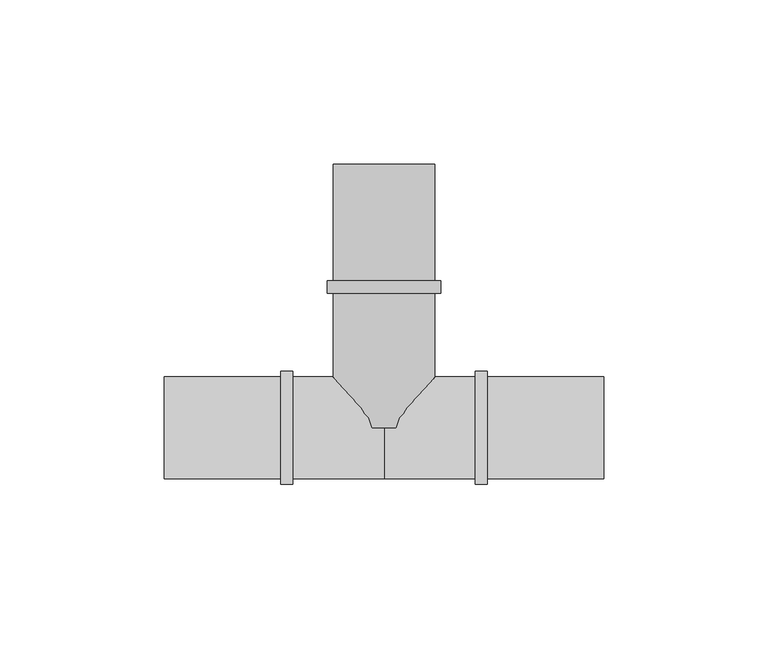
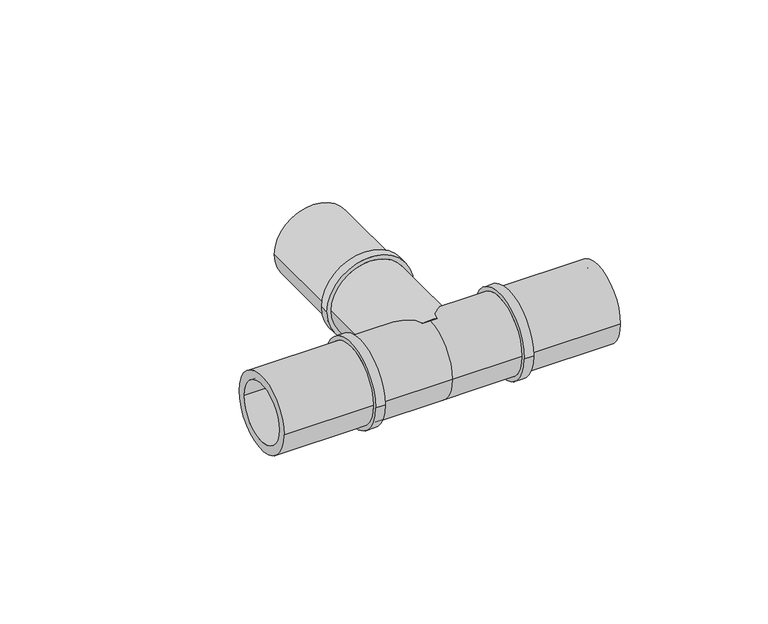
"""IFC4 building model written with IfcOpenShell, lengths in millimetres: pipe fitting geometry, FASTLOC_T-piece_LX : FSL T-Piece LX PL."""

from ifc_helpers import new_model, si_unit, frame, origin, place, context, project, spatial, polyline, circle_curve, source, transform, mapped, element, save
from ifc_brep_helpers import plane_surface, cylinder_surface, revolved_surface, advanced_brep


def pipe_fitting_e33b69b1(model_context):
    return source(origin(), model_context, "Body", "AdvancedBrep", [
        advanced_brep(
        [(12.0, 80.2, 0.0), (-12.0, 80.2, 0.0), (-12.0, 0.0, 0.0), (12.0, 0.0, 0.0), (15.5, 0.0, 0.0), (-15.5, 0.0, 0.0), (-15.5, 41.0, 0.0), (15.5, 41.0, 0.0), (17.2, 41.0, 0.0), (-17.2, 41.0, 0.0), (-17.2, 44.7, 0.0), (17.2, 44.7, 0.0), (15.5, 44.7, 0.0), (-15.5, 44.7, 0.0), (-15.5, 80.2, 0.0), (15.5, 80.2, 0.0)],
        [
            (0, 1, circle_curve(frame((0.0, 80.2, 0.0), z_axis=(0.0, 1.0, 0.0), x_axis=(-1.0, 0.0, 0.0)), 12.0)),
            (1, 2),
            (2, 3, circle_curve(frame((0.0, 0.0, 0.0), z_axis=(0.0, -1.0, 0.0), x_axis=(-1.0, 0.0, 0.0)), 12.0)),
            (3, 0),
            (4, 5, circle_curve(frame((0.0, 0.0, 0.0), z_axis=(0.0, 1.0, 0.0), x_axis=(-1.0, 0.0, 0.0)), 15.5)),
            (5, 6),
            (6, 7, circle_curve(frame((0.0, 41.0, 0.0), z_axis=(0.0, -1.0, 0.0), x_axis=(-1.0, 0.0, 0.0)), 15.5)),
            (7, 4),
            (8, 9, circle_curve(frame((0.0, 41.0, 0.0), z_axis=(0.0, 1.0, 0.0), x_axis=(-1.0, 0.0, 0.0)), 17.2)),
            (9, 10),
            (10, 11, circle_curve(frame((0.0, 44.7, 0.0), z_axis=(0.0, -1.0, 0.0), x_axis=(-1.0, 0.0, 0.0)), 17.2)),
            (11, 8),
            (12, 13, circle_curve(frame((0.0, 44.7, 0.0), z_axis=(0.0, 1.0, 0.0), x_axis=(-1.0, 0.0, 0.0)), 15.5)),
            (13, 14),
            (14, 15, circle_curve(frame((0.0, 80.2, 0.0), z_axis=(0.0, -1.0, 0.0), x_axis=(-1.0, 0.0, 0.0)), 15.5)),
            (15, 12),
            (1, 0, circle_curve(frame((0.0, 80.2, 0.0), z_axis=(0.0, 1.0, 0.0), x_axis=(1.0, 0.0, 0.0)), 12.0)),
            (3, 2, circle_curve(frame((0.0, 0.0, 0.0), z_axis=(0.0, -1.0, 0.0), x_axis=(1.0, 0.0, 0.0)), 12.0)),
            (4, 5, circle_curve(frame((0.0, 0.0, 0.0), z_axis=(0.0, -1.0, 0.0), x_axis=(1.0, 0.0, 0.0)), 15.5)),
            (7, 6, circle_curve(frame((0.0, 41.0, 0.0), z_axis=(0.0, -1.0, 0.0), x_axis=(1.0, 0.0, 0.0)), 15.5)),
            (8, 9, circle_curve(frame((0.0, 41.0, 0.0), z_axis=(0.0, -1.0, 0.0), x_axis=(1.0, 0.0, 0.0)), 17.2)),
            (11, 10, circle_curve(frame((0.0, 44.7, 0.0), z_axis=(0.0, -1.0, 0.0), x_axis=(1.0, 0.0, 0.0)), 17.2)),
            (12, 13, circle_curve(frame((0.0, 44.7, 0.0), z_axis=(0.0, -1.0, 0.0), x_axis=(1.0, 0.0, 0.0)), 15.5)),
            (15, 14, circle_curve(frame((0.0, 80.2, 0.0), z_axis=(0.0, -1.0, 0.0), x_axis=(1.0, 0.0, 0.0)), 15.5)),
        ],
        [
            revolved_surface(polyline([(-12.0, 0.0, 0.0), (-12.0, 80.2, 0.0)]), (0.0, 0.0, 0.0), (0.0, -1.0, 0.0)),
            cylinder_surface(frame((0.0, 0.0, 0.0), z_axis=(0.0, -1.0, 0.0), x_axis=(-1.0, 0.0, 0.0)), 15.5),
            cylinder_surface(frame((0.0, 0.0, 0.0), z_axis=(0.0, -1.0, 0.0), x_axis=(-1.0, 0.0, 0.0)), 17.2),
            revolved_surface(polyline([(12.0, 0.0, 0.0), (12.0, 80.2, 0.0)]), (0.0, 0.0, 0.0), (0.0, -1.0, 0.0)),
            plane_surface(frame((0.0, 0.0, 0.0), z_axis=(0.0, -1.0, 0.0), x_axis=(1.0, 0.0, 0.0))),
            cylinder_surface(frame((0.0, 0.0, 0.0), z_axis=(0.0, -1.0, 0.0), x_axis=(1.0, 0.0, 0.0)), 15.5),
            plane_surface(frame((0.0, 41.0, 0.0), z_axis=(0.0, -1.0, 0.0), x_axis=(1.0, 0.0, 0.0))),
            cylinder_surface(frame((0.0, 0.0, 0.0), z_axis=(0.0, -1.0, 0.0), x_axis=(1.0, 0.0, 0.0)), 17.2),
            plane_surface(frame((0.0, 44.7, 0.0), z_axis=(0.0, 1.0, 0.0), x_axis=(1.0, 0.0, 0.0))),
            plane_surface(frame((0.0, 80.2, 0.0), z_axis=(0.0, 1.0, 0.0), x_axis=(1.0, 0.0, 0.0))),
        ],
        [
            (0, [[1, 2, 3, 4]]),
            (1, [[5, 6, 7, 8]]),
            (2, [[9, 10, 11, 12]]),
            (1, [[13, 14, 15, 16]]),
            (3, [[17, -4, 18, -2]]),
            (4, [[19, -5], [-18, -3]]),
            (5, [[-19, -8, 20, -6]]),
            (6, [[21, -9], [-20, -7]]),
            (7, [[-21, -12, 22, -10]]),
            (8, [[-22, -11], [23, -13]]),
            (5, [[-23, -16, 24, -14]]),
            (9, [[-24, -15], [-17, -1]]),
        ],
    ),
        advanced_brep(
        [(0.0, 15.5, 0.0), (0.0, -15.5, 0.0), (-27.7, -15.5, 0.0), (-27.7, 15.5, 0.0), (27.7, 15.5, 0.0), (27.7, -15.5, 0.0), (31.4, 17.2, 0.0), (31.4, -17.2, 0.0), (27.7, -17.2, 0.0), (27.7, 17.2, 0.0), (66.85, 15.5, 0.0), (66.85, -15.5, 0.0), (31.4, -15.5, 0.0), (31.4, 15.5, 0.0), (-31.4, 15.5, 0.0), (-31.4, -15.5, 0.0), (-66.85, -15.5, 0.0), (-66.85, 15.5, 0.0), (-27.7, 17.2, 0.0), (-27.7, -17.2, 0.0), (-31.4, -17.2, 0.0), (-31.4, 17.2, 0.0), (66.85, -12.0, 0.0), (66.85, 12.0, 0.0), (-66.85, 12.0, 0.0), (-66.85, -12.0, 0.0), (0.0, 12.0, 0.0), (0.0, -12.0, 0.0)],
        [
            (0, 1, circle_curve(frame((0.0, 0.0, 0.0), z_axis=(-1.0, 0.0, 0.0), x_axis=(0.0, -1.0, 0.0)), 15.5)),
            (1, 2),
            (2, 3, circle_curve(frame((-27.7, 0.0, 0.0), z_axis=(1.0, 0.0, 0.0), x_axis=(0.0, -1.0, 0.0)), 15.5)),
            (3, 0),
            (4, 5, circle_curve(frame((27.7, 0.0, 0.0), z_axis=(-1.0, 0.0, 0.0), x_axis=(0.0, -1.0, 0.0)), 15.5)),
            (5, 1),
            (0, 4),
            (6, 7, circle_curve(frame((31.4, 0.0, 0.0), z_axis=(-1.0, 0.0, 0.0), x_axis=(0.0, -1.0, 0.0)), 17.2)),
            (7, 8),
            (8, 9, circle_curve(frame((27.7, 0.0, 0.0), z_axis=(1.0, 0.0, 0.0), x_axis=(0.0, -1.0, 0.0)), 17.2)),
            (9, 6),
            (10, 11, circle_curve(frame((66.85, 0.0, 0.0), z_axis=(-1.0, 0.0, 0.0), x_axis=(0.0, -1.0, 0.0)), 15.5)),
            (11, 12),
            (12, 13, circle_curve(frame((31.4, 0.0, 0.0), z_axis=(1.0, 0.0, 0.0), x_axis=(0.0, -1.0, 0.0)), 15.5)),
            (13, 10),
            (14, 15, circle_curve(frame((-31.4, 0.0, 0.0), z_axis=(-1.0, 0.0, 0.0), x_axis=(0.0, -1.0, 0.0)), 15.5)),
            (15, 16),
            (16, 17, circle_curve(frame((-66.85, 0.0, 0.0), z_axis=(1.0, 0.0, 0.0), x_axis=(0.0, -1.0, 0.0)), 15.5)),
            (17, 14),
            (18, 19, circle_curve(frame((-27.7, 0.0, 0.0), z_axis=(-1.0, 0.0, 0.0), x_axis=(0.0, -1.0, 0.0)), 17.2)),
            (19, 20),
            (20, 21, circle_curve(frame((-31.4, 0.0, 0.0), z_axis=(1.0, 0.0, 0.0), x_axis=(0.0, -1.0, 0.0)), 17.2)),
            (21, 18),
            (18, 19, circle_curve(frame((-27.7, 0.0, 0.0), z_axis=(1.0, 0.0, 0.0), x_axis=(0.0, 1.0, 0.0)), 17.2)),
            (2, 3, circle_curve(frame((-27.7, 0.0, 0.0), z_axis=(-1.0, 0.0, 0.0), x_axis=(0.0, 1.0, 0.0)), 15.5)),
            (1, 0, circle_curve(frame((0.0, 0.0, 0.0), z_axis=(-1.0, 0.0, 0.0), x_axis=(0.0, 1.0, 0.0)), 15.5)),
            (5, 4, circle_curve(frame((27.7, 0.0, 0.0), z_axis=(-1.0, 0.0, 0.0), x_axis=(0.0, 1.0, 0.0)), 15.5)),
            (8, 9, circle_curve(frame((27.7, 0.0, 0.0), z_axis=(-1.0, 0.0, 0.0), x_axis=(0.0, 1.0, 0.0)), 17.2)),
            (7, 6, circle_curve(frame((31.4, 0.0, 0.0), z_axis=(-1.0, 0.0, 0.0), x_axis=(0.0, 1.0, 0.0)), 17.2)),
            (12, 13, circle_curve(frame((31.4, 0.0, 0.0), z_axis=(-1.0, 0.0, 0.0), x_axis=(0.0, 1.0, 0.0)), 15.5)),
            (11, 10, circle_curve(frame((66.85, 0.0, 0.0), z_axis=(-1.0, 0.0, 0.0), x_axis=(0.0, 1.0, 0.0)), 15.5)),
            (22, 23, circle_curve(frame((66.85, 0.0, 0.0), z_axis=(-1.0, 0.0, 0.0), x_axis=(0.0, 1.0, 0.0)), 12.0)),
            (23, 22, circle_curve(frame((66.85, 0.0, 0.0), z_axis=(-1.0, 0.0, 0.0), x_axis=(0.0, -1.0, 0.0)), 12.0)),
            (16, 17, circle_curve(frame((-66.85, 0.0, 0.0), z_axis=(-1.0, 0.0, 0.0), x_axis=(0.0, 1.0, 0.0)), 15.5)),
            (24, 25, circle_curve(frame((-66.85, 0.0, 0.0), z_axis=(1.0, 0.0, 0.0), x_axis=(0.0, 1.0, 0.0)), 12.0)),
            (25, 24, circle_curve(frame((-66.85, 0.0, 0.0), z_axis=(1.0, 0.0, 0.0), x_axis=(0.0, -1.0, 0.0)), 12.0)),
            (15, 14, circle_curve(frame((-31.4, 0.0, 0.0), z_axis=(-1.0, 0.0, 0.0), x_axis=(0.0, 1.0, 0.0)), 15.5)),
            (20, 21, circle_curve(frame((-31.4, 0.0, 0.0), z_axis=(-1.0, 0.0, 0.0), x_axis=(0.0, 1.0, 0.0)), 17.2)),
            (26, 27, circle_curve(frame((0.0, 0.0, 0.0), z_axis=(-1.0, 0.0, 0.0), x_axis=(0.0, -1.0, 0.0)), 12.0)),
            (27, 22),
            (23, 26),
            (25, 27),
            (26, 24),
            (27, 26, circle_curve(frame((0.0, 0.0, 0.0), z_axis=(-1.0, 0.0, 0.0), x_axis=(0.0, 1.0, 0.0)), 12.0)),
        ],
        [
            cylinder_surface(frame((0.0, 0.0, 0.0), z_axis=(1.0, 0.0, 0.0), x_axis=(0.0, -1.0, 0.0)), 15.5),
            cylinder_surface(frame((0.0, 0.0, 0.0), z_axis=(1.0, 0.0, 0.0), x_axis=(0.0, -1.0, 0.0)), 17.2),
            plane_surface(frame((-27.7, 0.0, 0.0), z_axis=(1.0, 0.0, 0.0), x_axis=(0.0, 1.0, 0.0))),
            cylinder_surface(frame((0.0, 0.0, 0.0), z_axis=(1.0, 0.0, 0.0), x_axis=(0.0, 1.0, 0.0)), 15.5),
            plane_surface(frame((27.7, 0.0, 0.0), z_axis=(-1.0, 0.0, 0.0), x_axis=(0.0, 1.0, 0.0))),
            cylinder_surface(frame((0.0, 0.0, 0.0), z_axis=(1.0, 0.0, 0.0), x_axis=(0.0, 1.0, 0.0)), 17.2),
            plane_surface(frame((31.4, 0.0, 0.0), z_axis=(1.0, 0.0, 0.0), x_axis=(0.0, 1.0, 0.0))),
            plane_surface(frame((66.85, 0.0, 0.0), z_axis=(1.0, 0.0, 0.0), x_axis=(0.0, 1.0, 0.0))),
            plane_surface(frame((-66.85, 0.0, 0.0), z_axis=(-1.0, 0.0, 0.0), x_axis=(0.0, 1.0, 0.0))),
            plane_surface(frame((-31.4, 0.0, 0.0), z_axis=(-1.0, 0.0, 0.0), x_axis=(0.0, 1.0, 0.0))),
            revolved_surface(polyline([(66.85, -12.0, 0.0), (0.0, -12.0, 0.0)]), (0.0, 0.0, 0.0), (1.0, 0.0, 0.0)),
            revolved_surface(polyline([(0.0, -12.0, 0.0), (-66.85, -12.0, 0.0)]), (0.0, 0.0, 0.0), (1.0, 0.0, 0.0)),
            revolved_surface(polyline([(66.85, 12.0, 0.0), (0.0, 12.0, 0.0)]), (0.0, 0.0, 0.0), (1.0, 0.0, 0.0)),
            revolved_surface(polyline([(0.0, 12.0, 0.0), (-66.85, 12.0, 0.0)]), (0.0, 0.0, 0.0), (1.0, 0.0, 0.0)),
        ],
        [
            (0, [[1, 2, 3, 4]]),
            (0, [[5, 6, -1, 7]]),
            (1, [[8, 9, 10, 11]]),
            (0, [[12, 13, 14, 15]]),
            (0, [[16, 17, 18, 19]]),
            (1, [[20, 21, 22, 23]]),
            (2, [[24, -20], [25, -3]]),
            (3, [[26, -4, -25, -2]]),
            (3, [[27, -7, -26, -6]]),
            (4, [[28, -10], [-27, -5]]),
            (5, [[29, -11, -28, -9]]),
            (6, [[-29, -8], [30, -14]]),
            (3, [[31, -15, -30, -13]]),
            (7, [[-31, -12], [32, 33]]),
            (8, [[34, -18], [35, 36]]),
            (3, [[37, -19, -34, -17]]),
            (9, [[38, -22], [-37, -16]]),
            (5, [[-24, -23, -38, -21]]),
            (10, [[39, 40, -33, 41]]),
            (11, [[-36, 42, -39, 43]]),
            (12, [[44, -41, -32, -40]]),
            (13, [[-35, -43, -44, -42]]),
        ],
    ),
    ])


if __name__ == "__main__":
    model = new_model("IFC4")
    model_context = context("Model", 3, world=origin())
    ifc_project = project(units=[si_unit("LENGTHUNIT", "METRE", prefix="MILLI")], contexts=[model_context])
    site = spatial("IfcSite", under=ifc_project)
    building = spatial("IfcBuilding", under=site)
    placement = place(None, origin())
    pipe_fitting_shape = pipe_fitting_e33b69b1(model_context)
    element("IfcPipeFitting", 1, ObjectType="FASTLOC_T-piece_LX : FSL T-Piece LX PL", at=placement, inside=building, context=model_context, shape_type="MappedRepresentation", body=[
        mapped(pipe_fitting_shape, transform((0.0, 0.0, 0.0), x_axis=(1.0, 0.0, 0.0), y_axis=(0.0, 1.0, 0.0), z_axis=(0.0, 0.0, 1.0))),
    ])
    save(model, "model.ifc")
